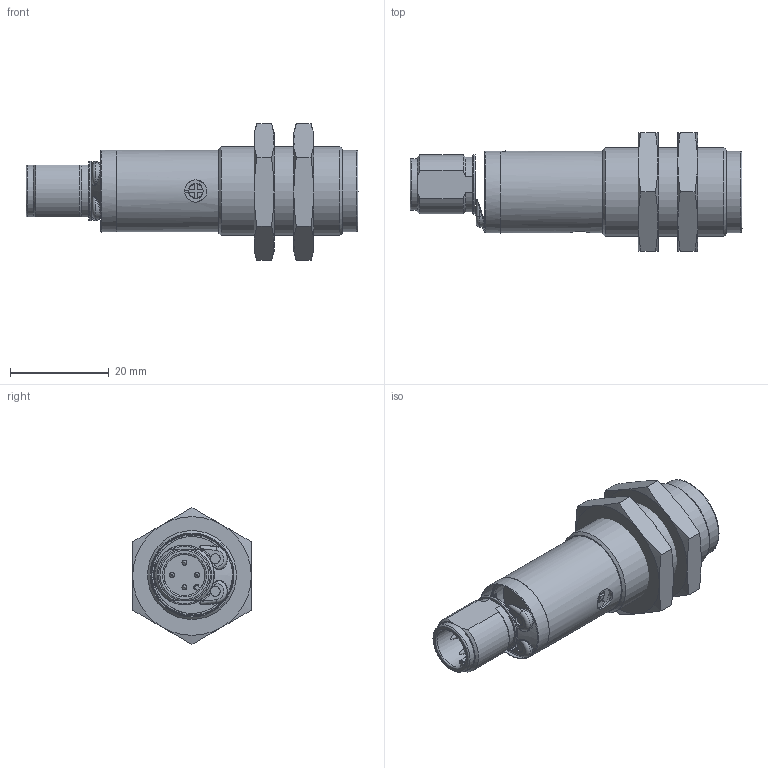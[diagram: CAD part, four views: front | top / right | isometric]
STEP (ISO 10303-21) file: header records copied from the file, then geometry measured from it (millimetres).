
FILE_DESCRIPTION( ( 'Unknown' ), '1' );
FILE_NAME( 'X:/SolidEdge/Models/Dokumentationen/Opto/OR18 Datalogic/vereinfachte Modelle/Neutralformate/OR18.Rx-xWxP.9VO.stp', 'Unknown', ( 'Unknown' ), ( 'Unknown' ), 'PSStep 15.0.49', 'Unknown', ' ' );
FILE_SCHEMA( ( 'AUTOMOTIVE_DESIGN { 1 0 10303 214 1 1 1 1 }' ) );
Length unit declared in the file: millimetre
Products named in the file (4): Assem1; DSD-0701-baumer; DSD-0124_Metallic_Nut_Baumer
Assembly tree (4 placements, depth 2):
  Assem1
    DSD-0701-baumer
    DSD-0701-baumer
    DSD-0124_Metallic_Nut_Baumer  x2
Bounding box: 67.2 x 24 x 27.71 mm (x, y, z)
Volume: 15451.8 mm3; surface area: 7110.4 mm2
Topology: 4 solids, 4 shells, 194 faces, 452 edges, 284 vertices
Faces by surface type: plane 88, cylinder 45, cone 36, bspline 18, torus 7
Full cylindrical faces by diameter (mm): 1 x4, 2 x2, 3 x1, 4.5 x1, 4.7 x1, 8.3 x1, 10.5 x1, 12.1 x1, 14.45 x1, 15.6 x2, 16.55 x2, 16.6 x1, 16.917 x2, 18 x1
Entity records: 9960 total; most frequent: CARTESIAN_POINT 4919, ORIENTED_EDGE 714, DIRECTION 712, EDGE_CURVE 357, AXIS2_PLACEMENT_3D 284, VERTEX_POINT 239, EDGE_LOOP 224, FACE_OUTER_BOUND 197
